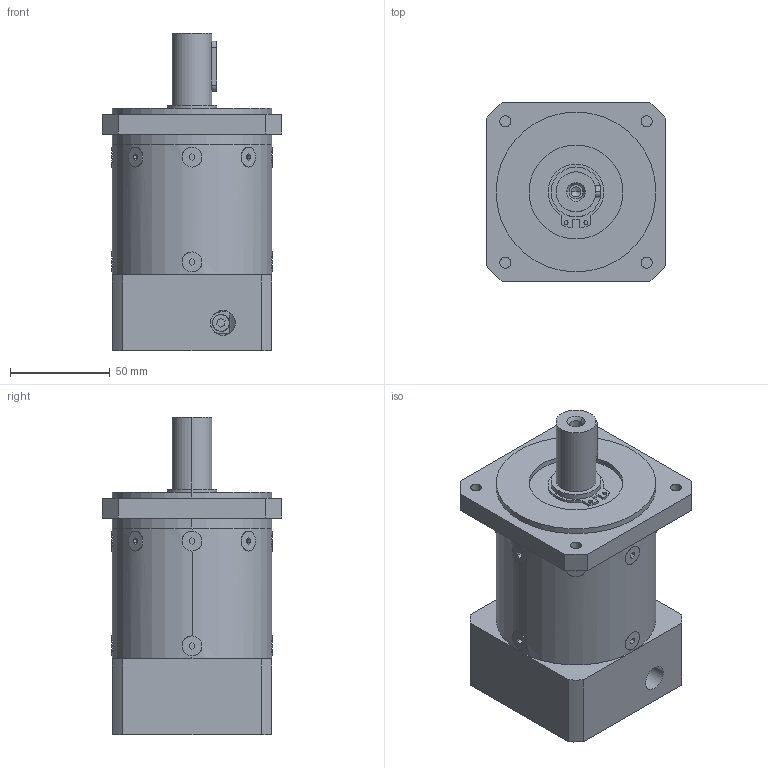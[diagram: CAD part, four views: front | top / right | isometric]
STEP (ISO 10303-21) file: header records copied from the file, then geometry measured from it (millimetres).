
FILE_DESCRIPTION (( 'STEP AP214' ), '1' );
FILE_NAME ('PLF-080-L2-S2-P2 19-70-90-M5.STEP', '2021-04-24T03:07:07', ( 'Microsoft' ), ( 'Microsoft China' ), 'SwSTEP 2.0', 'SolidWorks 2016', '' );
FILE_SCHEMA (( 'AUTOMOTIVE_DESIGN' ));
Length unit declared in the file: millimetre
Products named in the file (8): 粣創-6006 30x55x13; 邧埴瑩 6x6x25; 囀鞠褒蹟佪-M5℅20; PLF80 奻屳唳; PLF80 内齿圈-B版_二级内齿圈; PLF80 薊粣ん; PLF80 蟀諉啣-梓袧; PLF-080-L2-S2-P2 19-70-90-M5
Assembly tree (7 placements, depth 2):
  PLF-080-L2-S2-P2 19-70-90-M5
    PLF80 蟀諉啣-梓袧
    PLF80 薊粣ん
    PLF80 内齿圈-B版_二级内齿圈
    PLF80 奻屳唳
    囀鞠褒蹟佪-M5℅20
    邧埴瑩 6x6x25
    粣創-6006 30x55x13
Bounding box: 90 x 90 x 159 mm (x, y, z)
Volume: 619951.9 mm3; surface area: 119013.6 mm2
Topology: 7 solids, 7 shells, 525 faces, 1398 edges, 917 vertices
Faces by surface type: plane 208, cylinder 170, bspline 122, cone 24, torus 1
Entity records: 28201 total; most frequent: CARTESIAN_POINT 9848, ORIENTED_EDGE 2756, DIRECTION 2261, EDGE_CURVE 1378, VERTEX_POINT 917, AXIS2_PLACEMENT_3D 867, EDGE_LOOP 639, UNCERTAINTY_MEASURE_WITH_UNIT 547
